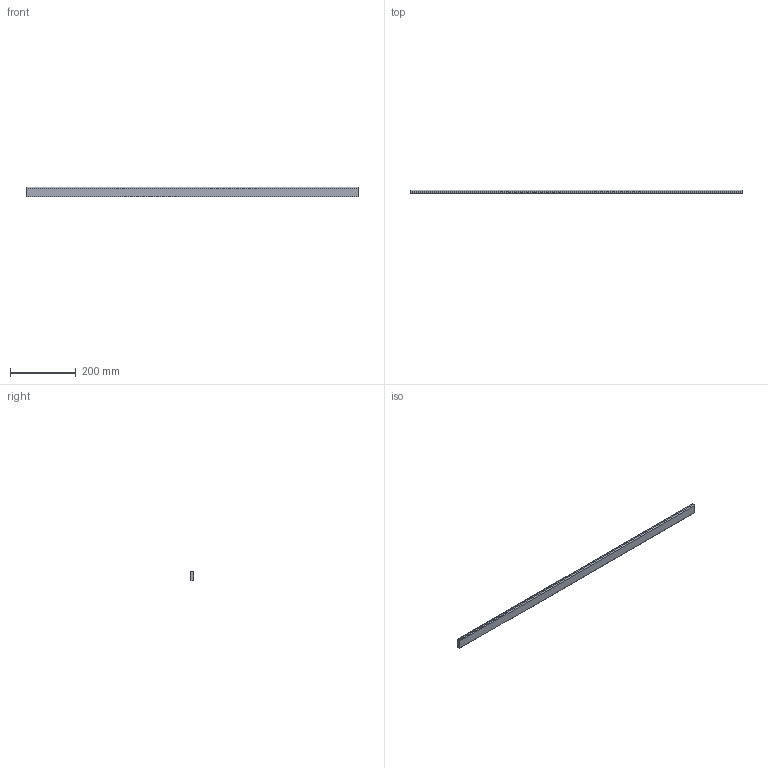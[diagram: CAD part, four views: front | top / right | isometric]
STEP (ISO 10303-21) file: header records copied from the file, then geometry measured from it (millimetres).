
FILE_DESCRIPTION (( 'STEP AP214' ), '1' );
FILE_NAME ('_Querreling_KAB-1100_KS-19.step', '2010-08-26T14:58:40', ( 'grass' ), ( '' ), 'SwSTEP 2.0', 'SolidWorks 2009', '' );
FILE_SCHEMA (( 'AUTOMOTIVE_DESIGN' ));
Length unit declared in the file: millimetre
Products named in the file (1): _Querreling_KAB-1100_KS-19
Bounding box: 1006.5 x 10.5 x 30 mm (x, y, z)
Volume: 312727.6 mm3; surface area: 78692 mm2
Topology: 1 solids, 1 shells, 10 faces, 24 edges, 16 vertices
Faces by surface type: plane 6, cylinder 4
Entity records: 330 total; most frequent: DIRECTION 54, CARTESIAN_POINT 51, ORIENTED_EDGE 48, EDGE_CURVE 24, AXIS2_PLACEMENT_3D 19, LINE 16, VECTOR 16, VERTEX_POINT 16
